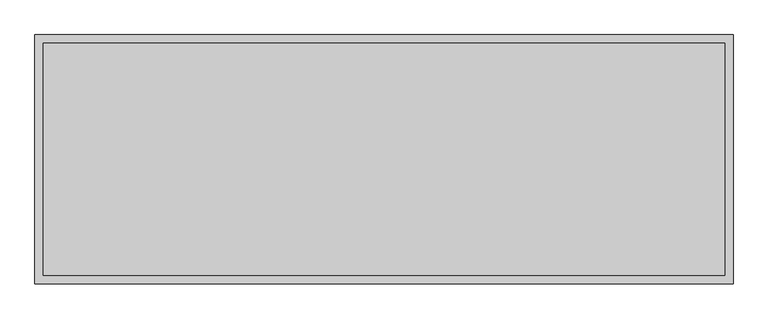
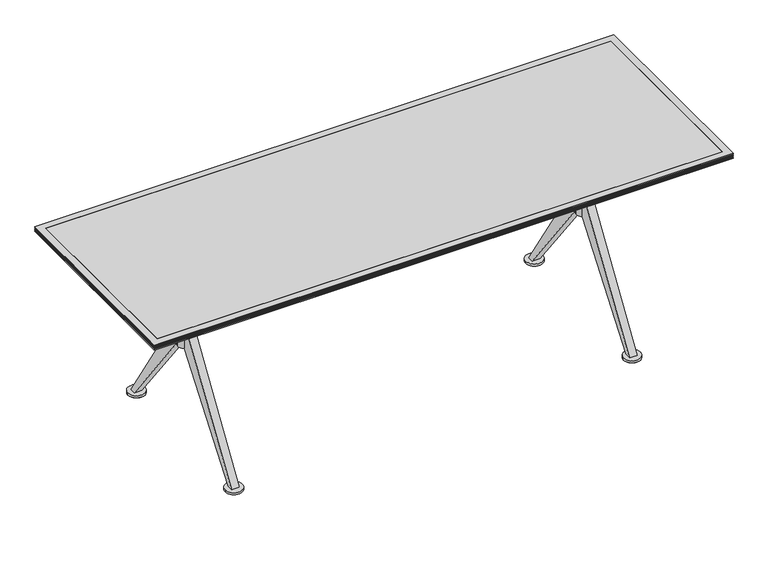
"""IFC4 building model written with IfcOpenShell, lengths in millimetres: furniture geometry, Coalesse_AM_Table_Conference_Ballet_Rectangular_XBase : Folding - 84L x 30W."""

from ifc_helpers import new_model, si_unit, point, frame, frame_2d, origin, origin_with_axes, place, context, project, spatial, polyline, circle_curve, trimmed, segment, composite_curve, outline, extrude, faceted_brep, source, transform, mapped, element, save
from ifc_brep_helpers import plane_surface, cylinder_surface, advanced_brep


def furniture_c636132f(model_context):
    return source(origin(), model_context, "Body", "SolidModel", [
        extrude(outline(composite_curve([segment(trimmed(circle_curve(frame_2d((-733.4365536, 310.3799254)), 25.4), [point((-758.8365536, 310.3799254))], [point((-708.0365536, 310.3799254))], False, "CARTESIAN"), True, "CONTINUOUS"), segment(trimmed(circle_curve(frame_2d((-733.4365536, 310.3799254)), 25.4), [point((-708.0365536, 310.3799254))], [point((-758.8365536, 310.3799254))], False, "CARTESIAN"), True, "CONTINUOUS")], self_intersect=False)), origin_with_axes(), (0.0, 0.0, 1.0), 4.5427804),
        extrude(outline(composite_curve([segment(trimmed(circle_curve(frame_2d((-734.0541541, -311.83186)), 25.4), [point((-759.4541541, -311.83186))], [point((-708.6541541, -311.83186))], False, "CARTESIAN"), True, "CONTINUOUS"), segment(trimmed(circle_curve(frame_2d((-734.0541541, -311.83186)), 25.4), [point((-708.6541541, -311.83186))], [point((-759.4541541, -311.83186))], False, "CARTESIAN"), True, "CONTINUOUS")], self_intersect=False)), origin_with_axes(), (0.0, 0.0, 1.0), 4.5427804),
        extrude(outline(composite_curve([segment(trimmed(circle_curve(frame_2d((733.4365536, 310.388)), 25.4), [point((708.0365536, 310.388))], [point((758.8365536, 310.388))], False, "CARTESIAN"), True, "CONTINUOUS"), segment(trimmed(circle_curve(frame_2d((733.4365536, 310.388)), 25.4), [point((758.8365536, 310.388))], [point((708.0365536, 310.388))], False, "CARTESIAN"), True, "CONTINUOUS")], self_intersect=False)), origin_with_axes(), (0.0, 0.0, 1.0), 4.5427804),
        extrude(outline(composite_curve([segment(trimmed(circle_curve(frame_2d((734.0541541, -311.83186)), 25.4), [point((708.6541541, -311.83186))], [point((759.4541541, -311.83186))], False, "CARTESIAN"), True, "CONTINUOUS"), segment(trimmed(circle_curve(frame_2d((734.0541541, -311.83186)), 25.4), [point((759.4541541, -311.83186))], [point((708.6541541, -311.83186))], False, "CARTESIAN"), True, "CONTINUOUS")], self_intersect=False)), origin_with_axes(), (0.0, 0.0, 1.0), 4.5427804),
        extrude(outline(composite_curve([segment(trimmed(circle_curve(frame_2d((-733.4365536, 310.3799254)), 31.7510292), [point((-765.1875828, 310.3799254))], [point((-701.6855244, 310.3799254))], False, "CARTESIAN"), True, "CONTINUOUS"), segment(trimmed(circle_curve(frame_2d((-733.4365536, 310.3799254)), 31.7510292), [point((-701.6855244, 310.3799254))], [point((-765.1875828, 310.3799254))], False, "CARTESIAN"), True, "CONTINUOUS")], self_intersect=False)), frame((0.0, 0.0, 4.5427804), z_axis=(0.0, 0.0, 1.0), x_axis=(1.0, 0.0, 0.0)), (0.0, 0.0, 1.0), 8.1572196),
        extrude(outline(composite_curve([segment(trimmed(circle_curve(frame_2d((-734.0541541, -311.83186)), 31.75), [point((-765.8041541, -311.83186))], [point((-702.3041541, -311.83186))], False, "CARTESIAN"), True, "CONTINUOUS"), segment(trimmed(circle_curve(frame_2d((-734.0541541, -311.83186)), 31.75), [point((-702.3041541, -311.83186))], [point((-765.8041541, -311.83186))], False, "CARTESIAN"), True, "CONTINUOUS")], self_intersect=False)), frame((0.0, 0.0, 4.5427804), z_axis=(0.0, 0.0, 1.0), x_axis=(1.0, 0.0, 0.0)), (0.0, 0.0, 1.0), 8.1572196),
        extrude(outline(composite_curve([segment(trimmed(circle_curve(frame_2d((733.4365536, 310.388)), 31.7510292), [point((701.6855244, 310.388))], [point((765.1875828, 310.388))], False, "CARTESIAN"), True, "CONTINUOUS"), segment(trimmed(circle_curve(frame_2d((733.4365536, 310.388)), 31.7510292), [point((765.1875828, 310.388))], [point((701.6855244, 310.388))], False, "CARTESIAN"), True, "CONTINUOUS")], self_intersect=False)), frame((0.0, 0.0, 4.5427804), z_axis=(0.0, 0.0, 1.0), x_axis=(1.0, 0.0, 0.0)), (0.0, 0.0, 1.0), 8.1572196),
        extrude(outline(composite_curve([segment(trimmed(circle_curve(frame_2d((734.0541541, -311.83186)), 31.75), [point((702.3041541, -311.83186))], [point((765.8041541, -311.83186))], False, "CARTESIAN"), True, "CONTINUOUS"), segment(trimmed(circle_curve(frame_2d((734.0541541, -311.83186)), 31.75), [point((765.8041541, -311.83186))], [point((702.3041541, -311.83186))], False, "CARTESIAN"), True, "CONTINUOUS")], self_intersect=False)), frame((0.0, 0.0, 4.5427804), z_axis=(0.0, 0.0, 1.0), x_axis=(1.0, 0.0, 0.0)), (0.0, 0.0, 1.0), 8.1572196),
        extrude(outline(polyline([(21.0343629, 381.0), (21.0343629, 482.7111245), (322.2625018, 12.7), (299.8750745, 12.7), (21.0343629, 381.0)])), frame((719.1375, 0.0, 0.0), z_axis=(1.0, 0.0, 0.0), x_axis=(0.0, 1.0, 0.0)), (0.0, 0.0, 1.0), 28.575),
        extrude(outline(polyline([(-21.0343629, 381.0), (-299.8750745, 12.7), (-322.2625018, 12.7), (-21.0343629, 482.7111245), (-21.0343629, 381.0)])), frame((719.1375, 0.0, 0.0), z_axis=(1.0, 0.0, 0.0), x_axis=(0.0, 1.0, 0.0)), (0.0, 0.0, 1.0), 28.575),
        extrude(outline(polyline([(21.0343629, 381.0), (21.0343629, 482.7111245), (322.2625018, 12.7), (299.8750745, 12.7), (21.0343629, 381.0)])), frame((-747.7125, 0.0, 0.0), z_axis=(1.0, 0.0, 0.0), x_axis=(0.0, 1.0, 0.0)), (0.0, 0.0, 1.0), 28.5877172),
        extrude(outline(polyline([(-21.0343629, 381.0), (-299.8750745, 12.7), (-322.2625018, 12.7), (-21.0343629, 482.7111245), (-21.0343629, 381.0)])), frame((-747.7125, 0.0, 0.0), z_axis=(1.0, 0.0, 0.0), x_axis=(0.0, 1.0, 0.0)), (0.0, 0.0, 1.0), 28.5877172),
        extrude(outline(polyline([(-21.0343629, 577.7388634), (-333.375, 698.5000242), (-305.990625, 698.5000242), (-21.0343629, 641.3500242), (-21.0343629, 577.7388634)])), frame((719.1375, 0.0, 0.0), z_axis=(1.0, 0.0, 0.0), x_axis=(0.0, 1.0, 0.0)), (0.0, 0.0, 1.0), 28.575),
        extrude(outline(polyline([(21.0343629, 577.7388634), (21.0343629, 641.3501773), (305.990625, 698.5000242), (333.375, 698.5000242), (21.0343629, 577.7388634)])), frame((719.1375, 0.0, 0.0), z_axis=(1.0, 0.0, 0.0), x_axis=(0.0, 1.0, 0.0)), (0.0, 0.0, 1.0), 28.575),
        extrude(outline(polyline([(-21.0343629, 577.7388634), (-333.375, 698.5000242), (-305.990625, 698.5000242), (-21.0343629, 641.3500242), (-21.0343629, 577.7388634)])), frame((-747.7125, 0.0, 0.0), z_axis=(1.0, 0.0, 0.0), x_axis=(0.0, 1.0, 0.0)), (0.0, 0.0, 1.0), 28.5877172),
        extrude(outline(polyline([(21.0343629, 577.7388634), (21.0343629, 641.3501773), (305.990625, 698.5000242), (333.375, 698.5000242), (21.0343629, 577.7388634)])), frame((-747.7125, 0.0, 0.0), z_axis=(1.0, 0.0, 0.0), x_axis=(0.0, 1.0, 0.0)), (0.0, 0.0, 1.0), 28.5877172),
        advanced_brep(
        [(712.0154775, 12.6999879, 492.1250121), (-712.0154775, 12.6999879, 492.1250121), (-712.0154775, 12.6999879, 568.3250121), (712.0154775, 12.6999879, 568.3250121), (-708.6125298, 0.0, 568.3250121), (-712.0154775, -12.6999879, 568.3250121), (712.0154775, -12.6999879, 568.3250121), (708.6125298, 0.0, 568.3250121), (-712.0154775, -12.6999879, 492.1250121), (712.0154775, -12.6999879, 492.1250121), (708.6125298, 0.0, 492.1250121), (-708.6125298, 0.0, 492.1250121), (-759.4125298, 0.0, 641.3500242), (-708.6125298, 0.0, 641.3500242), (708.6125298, 0.0, 641.3500242), (759.4125298, 0.0, 641.3500242), (-759.4125298, 0.0, 381.0), (-708.6125298, 0.0, 381.0), (708.6125298, 0.0, 381.0), (759.4125298, 0.0, 381.0)],
        [
            (0, 1),
            (1, 2),
            (2, 3),
            (3, 0),
            (2, 4, circle_curve(frame((-734.0125298, 0.0, 568.3250121), z_axis=(0.0, 0.0, -1.0), x_axis=(1.0, 0.0, 0.0)), 25.4)),
            (4, 5, circle_curve(frame((-734.0125298, 0.0, 568.3250121), z_axis=(0.0, 0.0, -1.0), x_axis=(1.0, 0.0, 0.0)), 25.4)),
            (5, 6),
            (6, 7, circle_curve(frame((734.0125298, 0.0, 568.3250121), z_axis=(0.0, 0.0, -1.0), x_axis=(1.0, 0.0, 0.0)), 25.4)),
            (7, 3, circle_curve(frame((734.0125298, 0.0, 568.3250121), z_axis=(0.0, 0.0, -1.0), x_axis=(1.0, 0.0, 0.0)), 25.4)),
            (5, 8),
            (8, 9),
            (9, 6),
            (0, 10, circle_curve(frame((734.0125298, 0.0, 492.1250121), z_axis=(0.0, 0.0, 1.0), x_axis=(1.0, 0.0, 0.0)), 25.4)),
            (10, 9, circle_curve(frame((734.0125298, 0.0, 492.1250121), z_axis=(0.0, 0.0, 1.0), x_axis=(1.0, 0.0, 0.0)), 25.4)),
            (8, 11, circle_curve(frame((-734.0125298, 0.0, 492.1250121), z_axis=(0.0, 0.0, 1.0), x_axis=(1.0, 0.0, 0.0)), 25.4)),
            (11, 1, circle_curve(frame((-734.0125298, 0.0, 492.1250121), z_axis=(0.0, 0.0, 1.0), x_axis=(1.0, 0.0, 0.0)), 25.4)),
            (12, 13, circle_curve(frame((-734.0125298, 0.0, 641.3500242), z_axis=(0.0, 0.0, 1.0), x_axis=(1.0, 0.0, 0.0)), 25.4)),
            (13, 12, circle_curve(frame((-734.0125298, 0.0, 641.3500242), z_axis=(0.0, 0.0, 1.0), x_axis=(1.0, 0.0, 0.0)), 25.4)),
            (14, 15, circle_curve(frame((734.0125298, 0.0, 641.3500242), z_axis=(0.0, 0.0, 1.0), x_axis=(1.0, 0.0, 0.0)), 25.4)),
            (15, 14, circle_curve(frame((734.0125298, 0.0, 641.3500242), z_axis=(0.0, 0.0, 1.0), x_axis=(1.0, 0.0, 0.0)), 25.4)),
            (16, 17, circle_curve(frame((-734.0125298, 0.0, 381.0), z_axis=(0.0, 0.0, -1.0), x_axis=(1.0, 0.0, 0.0)), 25.4)),
            (17, 16, circle_curve(frame((-734.0125298, 0.0, 381.0), z_axis=(0.0, 0.0, -1.0), x_axis=(1.0, 0.0, 0.0)), 25.4)),
            (18, 19, circle_curve(frame((734.0125298, 0.0, 381.0), z_axis=(0.0, 0.0, -1.0), x_axis=(1.0, 0.0, 0.0)), 25.4)),
            (19, 18, circle_curve(frame((734.0125298, 0.0, 381.0), z_axis=(0.0, 0.0, -1.0), x_axis=(1.0, 0.0, 0.0)), 25.4)),
            (12, 16),
            (17, 11),
            (4, 13),
            (14, 7),
            (10, 18),
            (19, 15),
        ],
        [
            plane_surface(frame((719.1375, 12.6999879, 492.1250121), z_axis=(0.0, 1.0, 0.0), x_axis=(-1.0, 0.0, 0.0))),
            plane_surface(frame((719.1375, 12.6999879, 568.3250121), z_axis=(0.0, 0.0, 1.0), x_axis=(-1.0, 0.0, 0.0))),
            plane_surface(frame((719.1375, -12.6999879, 568.3250121), z_axis=(0.0, -1.0, 0.0), x_axis=(-1.0, 0.0, 0.0))),
            plane_surface(frame((719.1375, -12.6999879, 492.1250121), z_axis=(0.0, 0.0, -1.0), x_axis=(-1.0, 0.0, 0.0))),
            plane_surface(frame((-708.6125298, 0.0, 641.3500242), z_axis=(0.0, 0.0, 1.0), x_axis=(0.0, 1.0, 0.0))),
            plane_surface(frame((-708.6125298, 0.0, 381.0), z_axis=(0.0, 0.0, -1.0), x_axis=(0.0, -1.0, 0.0))),
            cylinder_surface(frame((-734.0125298, 0.0, 381.0), z_axis=(0.0, 0.0, 1.0), x_axis=(1.0, 0.0, 0.0)), 25.4),
            cylinder_surface(frame((734.0125298, 0.0, 0.0), z_axis=(0.0, 0.0, 1.0), x_axis=(1.0, 0.0, 0.0)), 25.4),
        ],
        [
            (0, [[1, 2, 3, 4]]),
            (1, [[-3, 5, 6, 7, 8, 9]]),
            (2, [[-7, 10, 11, 12]]),
            (3, [[-1, 13, 14, -11, 15, 16]]),
            (4, [[17, 18]]),
            (4, [[19, 20]]),
            (5, [[21, 22]]),
            (5, [[23, 24]]),
            (6, [[-17, 25, -22, 26, -15, -10, -6, 27]]),
            (6, [[-18, -27, -5, -2, -16, -26, -21, -25]]),
            (7, [[-19, 28, -8, -12, -14, 29, -24, 30]]),
            (7, [[-20, -30, -23, -29, -13, -4, -9, -28]]),
        ],
    ),
        faceted_brep([(-1066.8003633, 381.0, 704.85), (-1041.4003876, 355.6000242, 698.5000242), (-1041.4003876, -355.5999516, 698.5000242), (-1066.8003633, -380.9999273, 704.85), (-1066.8003633, 381.0, 708.0250242), (-1066.8003633, -380.9999273, 708.0250242), (-1063.6253755, 377.8250121, 709.6125), (-1063.6253755, -377.8249394, 709.6125), (-1066.8003633, 381.0, 711.1999758), (-1066.8003633, -380.9999273, 711.1999758), (-1063.6253755, 377.8250121, 712.7875242), (-1063.6253755, -377.8249394, 712.7875242), (-1066.8003633, 381.0, 714.375), (-1066.8003633, -380.9999273, 714.375), (-1063.6253755, 377.8250121, 715.9624758), (-1063.6253755, -377.8249394, 715.9624758), (-1066.8003633, 381.0, 717.5500242), (-1066.8003633, -380.9999273, 717.5500242), (-1063.6253755, 377.8250121, 719.1375), (-1063.6253755, -377.8249394, 719.1375), (-1066.8003633, 381.0, 720.7249758), (-1066.8003633, -380.9999273, 720.7249758), (-1066.8003633, 381.0, 723.9), (-1066.8003633, -380.9999273, 723.9), (-1041.4003876, 355.6000242, 723.9), (-1041.4003876, -355.5999516, 723.9), (1041.4, -355.5999516, 698.5000242), (1066.7999758, -380.9999273, 704.85), (1066.7999758, -380.9999273, 708.0250242), (1063.6249879, -377.8249394, 709.6125), (1066.7999758, -380.9999273, 711.1999758), (1063.6249879, -377.8249394, 712.7875242), (1066.7999758, -380.9999273, 714.375), (1063.6249879, -377.8249394, 715.9624758), (1066.7999758, -380.9999273, 717.5500242), (1063.6249879, -377.8249394, 719.1375), (1066.7999758, -380.9999273, 720.7249758), (1066.7999758, -380.9999273, 723.9), (1041.4, -355.5999516, 723.9), (1041.4, 355.6000242, 698.5000242), (1066.7999758, 381.0, 704.85), (1066.7999758, 381.0, 708.0250242), (1063.6249879, 377.8250121, 709.6125), (1066.7999758, 381.0, 711.1999758), (1063.6249879, 377.8250121, 712.7875242), (1066.7999758, 381.0, 714.375), (1063.6249879, 377.8250121, 715.9624758), (1066.7999758, 381.0, 717.5500242), (1063.6249879, 377.8250121, 719.1375), (1066.7999758, 381.0, 720.7249758), (1066.7999758, 381.0, 723.9), (1041.4, 355.6000242, 723.9)], [[[0, 1, 2, 3]], [[4, 0, 3, 5]], [[6, 4, 5, 7]], [[8, 6, 7, 9]], [[10, 8, 9, 11]], [[12, 10, 11, 13]], [[14, 12, 13, 15]], [[16, 14, 15, 17]], [[18, 16, 17, 19]], [[20, 18, 19, 21]], [[22, 20, 21, 23]], [[1, 24, 25, 2]], [[3, 2, 26, 27]], [[5, 3, 27, 28]], [[7, 5, 28, 29]], [[9, 7, 29, 30]], [[11, 9, 30, 31]], [[13, 11, 31, 32]], [[15, 13, 32, 33]], [[17, 15, 33, 34]], [[19, 17, 34, 35]], [[21, 19, 35, 36]], [[23, 21, 36, 37]], [[2, 25, 38, 26]], [[27, 26, 39, 40]], [[28, 27, 40, 41]], [[29, 28, 41, 42]], [[30, 29, 42, 43]], [[31, 30, 43, 44]], [[32, 31, 44, 45]], [[33, 32, 45, 46]], [[34, 33, 46, 47]], [[35, 34, 47, 48]], [[36, 35, 48, 49]], [[37, 36, 49, 50]], [[26, 38, 51, 39]], [[40, 39, 1, 0]], [[41, 40, 0, 4]], [[42, 41, 4, 6]], [[43, 42, 6, 8]], [[44, 43, 8, 10]], [[45, 44, 10, 12]], [[46, 45, 12, 14]], [[47, 46, 14, 16]], [[48, 47, 16, 18]], [[49, 48, 18, 20]], [[50, 49, 20, 22]], [[23, 37, 50, 22], [24, 51, 38, 25]], [[39, 51, 24, 1]]]),
        extrude(outline(polyline([(1041.4, 355.6000242), (1041.4, -355.5999516), (-1041.4003876, -355.5999516), (-1041.4003876, 355.6000242), (1041.4, 355.6000242)])), frame((0.0, 0.0, 704.85), z_axis=(0.0, 0.0, 1.0), x_axis=(1.0, 0.0, 0.0)), (0.0, 0.0, 1.0), 19.05),
    ])


if __name__ == "__main__":
    model = new_model("IFC4")
    model_context = context("Model", 3, world=origin())
    ifc_project = project(units=[si_unit("LENGTHUNIT", "METRE", prefix="MILLI")], contexts=[model_context])
    site = spatial("IfcSite", under=ifc_project)
    building = spatial("IfcBuilding", under=site)
    placement = place(None, origin())
    furniture_shape = furniture_c636132f(model_context)
    element("IfcFurniture", 1, ObjectType="Coalesse_AM_Table_Conference_Ballet_Rectangular_XBase : Folding - 84L x 30W", at=placement, inside=building, context=model_context, shape_type="MappedRepresentation", body=[
        mapped(furniture_shape, transform((0.0, 0.0, 0.0), x_axis=(1.0, 0.0, 0.0), y_axis=(0.0, 1.0, 0.0), z_axis=(0.0, 0.0, 1.0))),
    ])
    save(model, "model.ifc")
